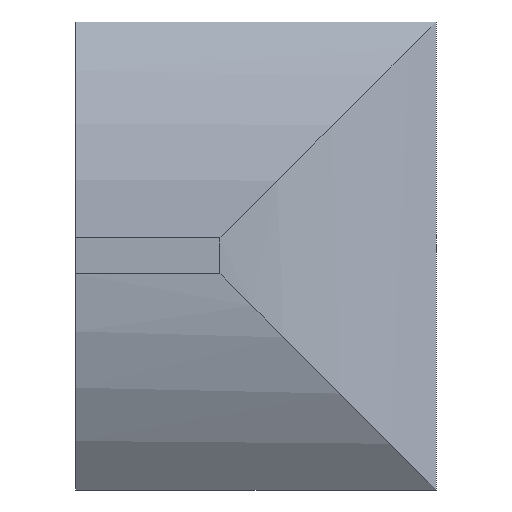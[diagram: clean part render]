
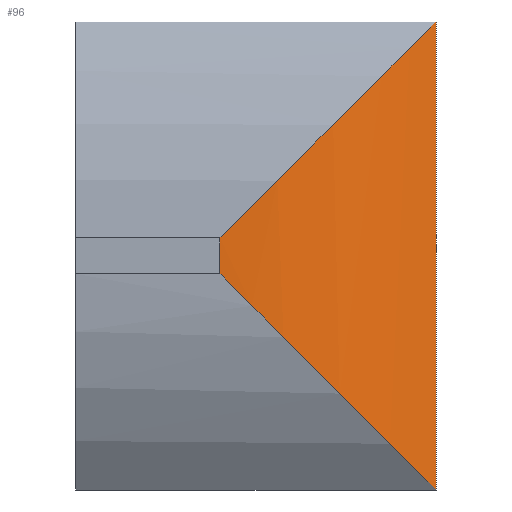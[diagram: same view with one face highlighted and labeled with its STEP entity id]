
A CAD part, top view. The second image highlights one B-rep face of the part: STEP entity #96.
In plain terms, the highlighted cylindrical face has radius 1 mm (diameter 2 mm), a partial arc.
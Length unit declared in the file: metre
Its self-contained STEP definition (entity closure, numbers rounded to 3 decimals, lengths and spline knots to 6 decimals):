
#19=LINE('',#153,#27);
#22=LINE('',#159,#30);
#27=VECTOR('',#123,1.);
#30=VECTOR('',#128,1.);
#41=ORIENTED_EDGE('',*,*,#57,.F.);
#42=ORIENTED_EDGE('',*,*,#64,.T.);
#43=ORIENTED_EDGE('',*,*,#65,.F.);
#44=ORIENTED_EDGE('',*,*,#61,.T.);
#57=EDGE_CURVE('',#69,#70,#77,.T.);
#61=EDGE_CURVE('',#73,#70,#19,.T.);
#64=EDGE_CURVE('',#69,#75,#22,.F.);
#65=EDGE_CURVE('',#73,#75,#78,.T.);
#69=VERTEX_POINT('',#145);
#70=VERTEX_POINT('',#146);
#73=VERTEX_POINT('',#154);
#75=VERTEX_POINT('',#160);
#77=B_SPLINE_CURVE_WITH_KNOTS('',3,(#141,#142,#143,#144),.UNSPECIFIED.,
 .F.,.F.,(4,4),(53.130102,90.),.UNSPECIFIED.);
#78=B_SPLINE_CURVE_WITH_KNOTS('',3,(#161,#162,#163,#164),.UNSPECIFIED.,
 .F.,.F.,(4,4),(270.,306.869898),.UNSPECIFIED.);
#81=EDGE_LOOP('',(#41,#42,#43,#44));
#87=FACE_BOUND('',#81,.T.);
#92=CYLINDRICAL_SURFACE('',#108,0.001);
#96=ADVANCED_FACE('',(#87),#92,.T.);
#108=AXIS2_PLACEMENT_3D('',#158,#126,#127);
#123=DIRECTION('',(0.,-1.,0.));
#126=DIRECTION('',(0.,-1.,0.));
#127=DIRECTION('',(0.6,0.,0.8));
#128=DIRECTION('',(0.,-1.,0.));
#141=CARTESIAN_POINT('',(0.021748,0.00085,-0.0284));
#142=CARTESIAN_POINT('',(0.021576,0.001022,-0.028271));
#143=CARTESIAN_POINT('',(0.021363,0.001235,-0.0282));
#144=CARTESIAN_POINT('',(0.021148,0.00145,-0.0282));
#145=CARTESIAN_POINT('',(0.021748,0.00085,-0.0284));
#146=CARTESIAN_POINT('',(0.021148,0.00145,-0.0282));
#153=CARTESIAN_POINT('',(0.021148,0.00085,-0.0282));
#154=CARTESIAN_POINT('',(0.021148,0.00155,-0.0282));
#158=CARTESIAN_POINT('',(0.021148,0.00085,-0.0292));
#159=CARTESIAN_POINT('',(0.021748,0.00085,-0.0284));
#160=CARTESIAN_POINT('',(0.021748,0.00215,-0.0284));
#161=CARTESIAN_POINT('',(0.021148,0.00155,-0.0282));
#162=CARTESIAN_POINT('',(0.021363,0.001765,-0.0282));
#163=CARTESIAN_POINT('',(0.021576,0.001978,-0.028271));
#164=CARTESIAN_POINT('',(0.021748,0.00215,-0.0284));
